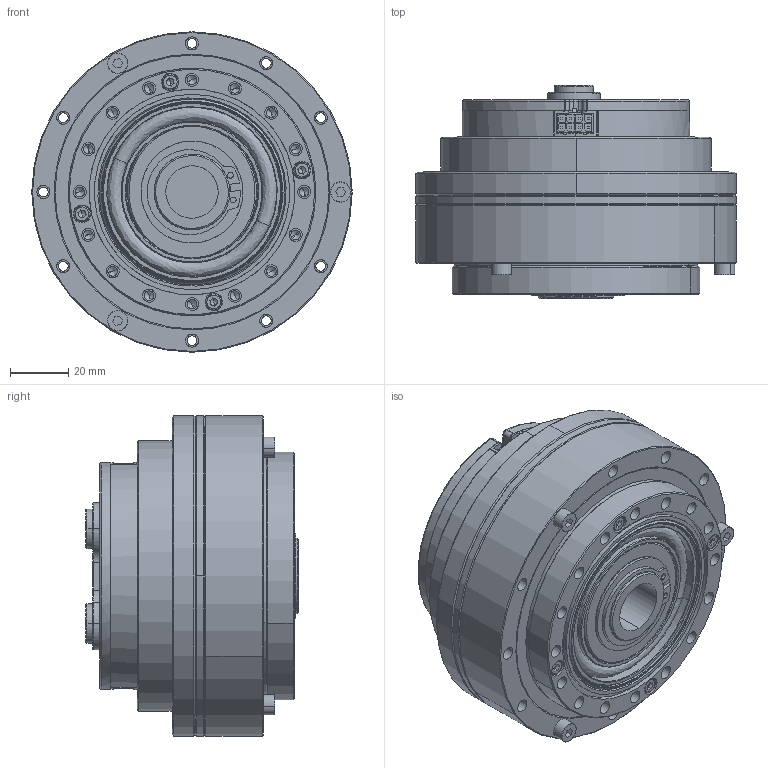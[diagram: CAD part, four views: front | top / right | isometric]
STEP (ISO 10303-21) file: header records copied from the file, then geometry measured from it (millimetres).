
FILE_DESCRIPTION (( 'STEP AP214' ), '1' );
FILE_NAME ('QDD_Pro-NU80-x-110_v2_2.STEP', '2019-07-01T08:24:21', ( 'Microsoft' ), ( 'Microsoft' ), 'SwSTEP 2.0', 'SolidWorks 2018', '' );
FILE_SCHEMA (( 'AUTOMOTIVE_DESIGN' ));
Length unit declared in the file: millimetre
Products named in the file (1): QDD_Pro-NU80-x-110_v2_2
Bounding box: 110 x 73.1 x 110 mm (x, y, z)
Volume: 399776.3 mm3; surface area: 181795.2 mm2
Topology: 106 solids, 106 shells, 2704 faces, 6660 edges, 4220 vertices
Faces by surface type: plane 1416, cylinder 749, cone 439, bspline 53, torus 47
Entity records: 125053 total; most frequent: CARTESIAN_POINT 32155, ORIENTED_EDGE 13168, DIRECTION 11957, EDGE_CURVE 6584, VERTEX_POINT 4220, AXIS2_PLACEMENT_3D 3986, LINE 3985, VECTOR 3985
